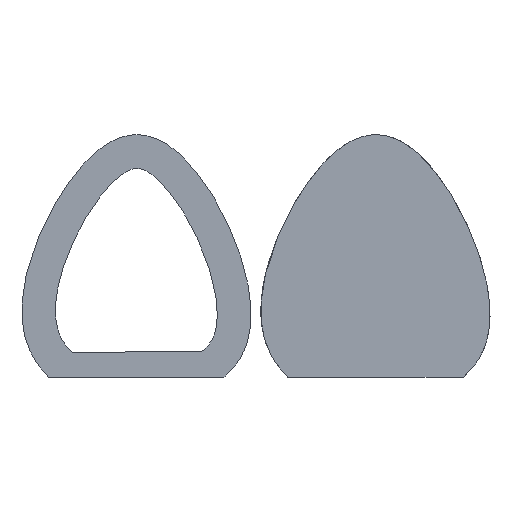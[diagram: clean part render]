
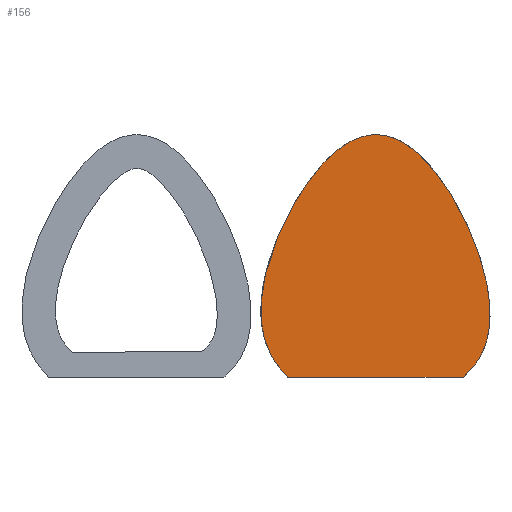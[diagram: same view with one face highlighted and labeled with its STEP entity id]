
A CAD part, top view. The second image highlights one B-rep face of the part: STEP entity #156.
In plain terms, the highlighted planar face has unit normal (0, 0, 1).
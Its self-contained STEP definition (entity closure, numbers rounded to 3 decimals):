
#23=(
BOUNDED_CURVE()
B_SPLINE_CURVE(5,(#747,#748,#749,#750,#751,#752,#753,#754,#755,#756,#757,
#758,#759,#760,#761,#762,#763,#764,#765,#766,#767,#768,#769,#770,#771,#772,
#773,#774,#775,#776,#777,#778,#779,#780,#781),.UNSPECIFIED.,.F.,.F.)
B_SPLINE_CURVE_WITH_KNOTS((6,1,1,1,1,1,1,1,1,1,1,1,1,1,1,1,1,1,1,1,1,1,
1,1,1,1,1,1,1,1,6),(-1.,-0.967,-0.933,-0.9,-0.867,
-0.833,-0.8,-0.767,-0.733,-0.7,-0.667,
-0.633,-0.6,-0.567,-0.533,-0.5,-0.467,
-0.433,-0.4,-0.367,-0.333,-0.3,-0.267,
-0.233,-0.2,-0.167,-0.133,-0.1,-0.067,
-0.033,0.),.UNSPECIFIED.)
CURVE()
GEOMETRIC_REPRESENTATION_ITEM()
RATIONAL_B_SPLINE_CURVE((1.,1.,1.,1.,1.,1.,1.,1.,1.,1.,1.,1.,1.,1.,1.,1.,
1.,1.,1.,1.,1.,1.,1.,1.,1.,1.,1.,1.,1.,1.,1.,1.,1.,1.,1.))
REPRESENTATION_ITEM('')
);
#31=PLANE('',#178);
#41=FACE_OUTER_BOUND('',#53,.T.);
#53=EDGE_LOOP('',(#143,#144));
#66=LINE('',#785,#78);
#78=VECTOR('',#203,10.);
#91=VERTEX_POINT('',#744);
#92=VERTEX_POINT('',#746);
#107=EDGE_CURVE('',#92,#91,#23,.T.);
#110=EDGE_CURVE('',#91,#92,#66,.T.);
#143=ORIENTED_EDGE('',*,*,#110,.T.);
#144=ORIENTED_EDGE('',*,*,#107,.T.);
#156=ADVANCED_FACE('',(#41),#31,.T.);
#178=AXIS2_PLACEMENT_3D('',#786,#204,#205);
#203=DIRECTION('',(1.,0.,0.));
#204=DIRECTION('center_axis',(0.,0.,1.));
#205=DIRECTION('ref_axis',(1.,0.,0.));
#744=CARTESIAN_POINT('',(-105.,0.,10.));
#746=CARTESIAN_POINT('',(155.,0.,10.));
#747=CARTESIAN_POINT('Ctrl Pts',(155.,0.,10.));
#748=CARTESIAN_POINT('Ctrl Pts',(158.904,3.178,10.));
#749=CARTESIAN_POINT('Ctrl Pts',(166.237,9.862,10.));
#750=CARTESIAN_POINT('Ctrl Pts',(175.807,20.878,10.));
#751=CARTESIAN_POINT('Ctrl Pts',(185.706,37.545,10.));
#752=CARTESIAN_POINT('Ctrl Pts',(193.312,61.64,10.));
#753=CARTESIAN_POINT('Ctrl Pts',(196.205,88.837,10.));
#754=CARTESIAN_POINT('Ctrl Pts',(194.537,118.797,10.));
#755=CARTESIAN_POINT('Ctrl Pts',(188.603,150.914,10.));
#756=CARTESIAN_POINT('Ctrl Pts',(178.834,184.327,10.));
#757=CARTESIAN_POINT('Ctrl Pts',(165.742,217.998,10.));
#758=CARTESIAN_POINT('Ctrl Pts',(149.889,250.759,10.));
#759=CARTESIAN_POINT('Ctrl Pts',(131.836,281.374,10.));
#760=CARTESIAN_POINT('Ctrl Pts',(112.114,308.595,10.));
#761=CARTESIAN_POINT('Ctrl Pts',(91.172,331.218,10.));
#762=CARTESIAN_POINT('Ctrl Pts',(69.382,348.158,10.));
#763=CARTESIAN_POINT('Ctrl Pts',(47.062,358.545,10.));
#764=CARTESIAN_POINT('Ctrl Pts',(24.488,361.812,10.));
#765=CARTESIAN_POINT('Ctrl Pts',(1.921,357.788,10.));
#766=CARTESIAN_POINT('Ctrl Pts',(-20.379,346.8,10.));
#767=CARTESIAN_POINT('Ctrl Pts',(-42.135,329.546,10.));
#768=CARTESIAN_POINT('Ctrl Pts',(-63.031,306.992,10.));
#769=CARTESIAN_POINT('Ctrl Pts',(-82.695,280.263,10.));
#770=CARTESIAN_POINT('Ctrl Pts',(-100.672,250.53,10.));
#771=CARTESIAN_POINT('Ctrl Pts',(-116.432,218.93,10.));
#772=CARTESIAN_POINT('Ctrl Pts',(-129.412,186.539,10.));
#773=CARTESIAN_POINT('Ctrl Pts',(-139.054,154.333,10.));
#774=CARTESIAN_POINT('Ctrl Pts',(-144.853,123.155,10.));
#775=CARTESIAN_POINT('Ctrl Pts',(-146.391,93.681,10.));
#776=CARTESIAN_POINT('Ctrl Pts',(-143.39,66.37,10.));
#777=CARTESIAN_POINT('Ctrl Pts',(-135.713,41.482,10.));
#778=CARTESIAN_POINT('Ctrl Pts',(-125.79,23.604,10.));
#779=CARTESIAN_POINT('Ctrl Pts',(-116.221,11.353,10.));
#780=CARTESIAN_POINT('Ctrl Pts',(-108.897,3.699,10.));
#781=CARTESIAN_POINT('Ctrl Pts',(-105.,0.,10.));
#785=CARTESIAN_POINT('',(-105.,0.,10.));
#786=CARTESIAN_POINT('Origin',(24.907,180.906,10.));
